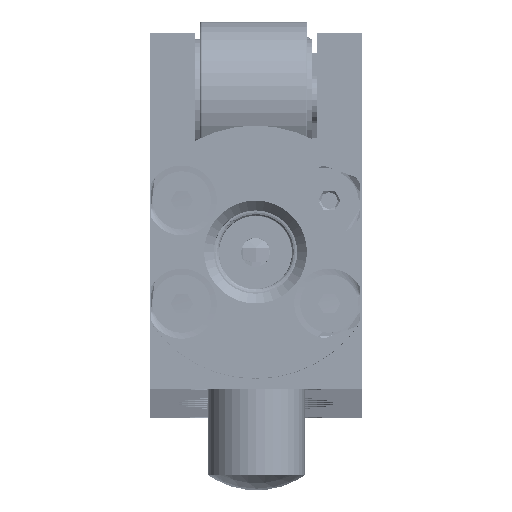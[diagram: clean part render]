
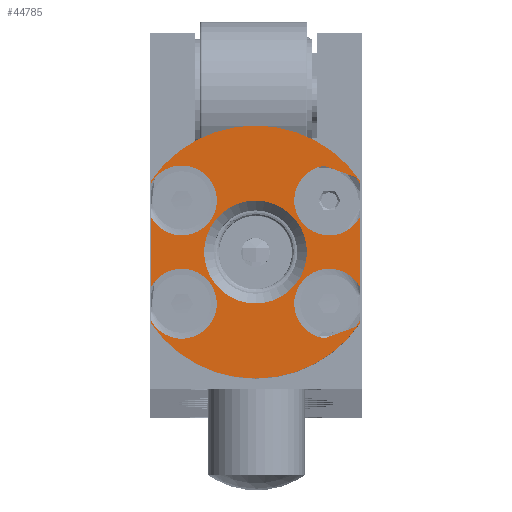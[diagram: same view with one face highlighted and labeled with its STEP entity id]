
A CAD part, top view. The second image highlights one B-rep face of the part: STEP entity #44785.
In plain terms, the highlighted planar face has unit normal (0, 0, 1).
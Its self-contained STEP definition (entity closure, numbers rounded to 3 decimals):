
#1626=FACE_BOUND('',#6975,.T.);
#2015=PLANE('',#49003);
#4252=FACE_OUTER_BOUND('',#6974,.T.);
#6974=EDGE_LOOP('',(#33857,#33858,#33859,#33860,#33861,#33862,#33863,#33864,
#33865,#33866,#33867,#33868,#33869,#33870,#33871,#33872));
#6975=EDGE_LOOP('',(#33873));
#9356=LINE('',#80592,#11003);
#9357=LINE('',#80595,#11004);
#9358=LINE('',#80599,#11005);
#9359=LINE('',#80603,#11006);
#9360=LINE('',#80607,#11007);
#9361=LINE('',#80611,#11008);
#9362=LINE('',#80615,#11009);
#9363=LINE('',#80618,#11010);
#11003=VECTOR('',#59495,10.);
#11004=VECTOR('',#59498,10.);
#11005=VECTOR('',#59501,10.);
#11006=VECTOR('',#59504,10.);
#11007=VECTOR('',#59507,10.);
#11008=VECTOR('',#59510,10.);
#11009=VECTOR('',#59513,10.);
#11010=VECTOR('',#59516,10.);
#13272=CIRCLE('',#48996,3.6);
#13275=CIRCLE('',#48999,3.6);
#13277=CIRCLE('',#49004,3.6);
#13278=CIRCLE('',#49005,3.6);
#13279=CIRCLE('',#49006,13.);
#13280=CIRCLE('',#49007,3.6);
#13281=CIRCLE('',#49008,3.6);
#13282=CIRCLE('',#49009,13.);
#13283=CIRCLE('',#49010,5.283);
#18231=VERTEX_POINT('',#80566);
#18232=VERTEX_POINT('',#80567);
#18233=VERTEX_POINT('',#80571);
#18237=VERTEX_POINT('',#80582);
#18239=VERTEX_POINT('',#80594);
#18240=VERTEX_POINT('',#80596);
#18241=VERTEX_POINT('',#80598);
#18242=VERTEX_POINT('',#80600);
#18243=VERTEX_POINT('',#80602);
#18244=VERTEX_POINT('',#80604);
#18245=VERTEX_POINT('',#80606);
#18246=VERTEX_POINT('',#80608);
#18247=VERTEX_POINT('',#80610);
#18248=VERTEX_POINT('',#80612);
#18249=VERTEX_POINT('',#80614);
#18250=VERTEX_POINT('',#80616);
#18251=VERTEX_POINT('',#80619);
#23969=EDGE_CURVE('',#18233,#18231,#13272,.T.);
#23975=EDGE_CURVE('',#18232,#18237,#13275,.T.);
#23978=EDGE_CURVE('',#18237,#18233,#9356,.T.);
#23979=EDGE_CURVE('',#18231,#18239,#9357,.T.);
#23980=EDGE_CURVE('',#18239,#18240,#13277,.T.);
#23981=EDGE_CURVE('',#18240,#18241,#9358,.T.);
#23982=EDGE_CURVE('',#18241,#18242,#13278,.T.);
#23983=EDGE_CURVE('',#18242,#18243,#9359,.T.);
#23984=EDGE_CURVE('',#18244,#18243,#13279,.T.);
#23985=EDGE_CURVE('',#18244,#18245,#9360,.T.);
#23986=EDGE_CURVE('',#18245,#18246,#13280,.T.);
#23987=EDGE_CURVE('',#18246,#18247,#9361,.T.);
#23988=EDGE_CURVE('',#18247,#18248,#13281,.T.);
#23989=EDGE_CURVE('',#18248,#18249,#9362,.T.);
#23990=EDGE_CURVE('',#18250,#18249,#13282,.T.);
#23991=EDGE_CURVE('',#18250,#18232,#9363,.T.);
#23992=EDGE_CURVE('',#18251,#18251,#13283,.T.);
#33857=ORIENTED_EDGE('',*,*,#23975,.T.);
#33858=ORIENTED_EDGE('',*,*,#23978,.T.);
#33859=ORIENTED_EDGE('',*,*,#23969,.T.);
#33860=ORIENTED_EDGE('',*,*,#23979,.T.);
#33861=ORIENTED_EDGE('',*,*,#23980,.T.);
#33862=ORIENTED_EDGE('',*,*,#23981,.T.);
#33863=ORIENTED_EDGE('',*,*,#23982,.T.);
#33864=ORIENTED_EDGE('',*,*,#23983,.T.);
#33865=ORIENTED_EDGE('',*,*,#23984,.F.);
#33866=ORIENTED_EDGE('',*,*,#23985,.T.);
#33867=ORIENTED_EDGE('',*,*,#23986,.T.);
#33868=ORIENTED_EDGE('',*,*,#23987,.T.);
#33869=ORIENTED_EDGE('',*,*,#23988,.T.);
#33870=ORIENTED_EDGE('',*,*,#23989,.T.);
#33871=ORIENTED_EDGE('',*,*,#23990,.F.);
#33872=ORIENTED_EDGE('',*,*,#23991,.T.);
#33873=ORIENTED_EDGE('',*,*,#23992,.F.);
#44785=ADVANCED_FACE('',(#4252,#1626),#2015,.T.);
#48996=AXIS2_PLACEMENT_3D('',#80572,#59479,#59480);
#48999=AXIS2_PLACEMENT_3D('',#80586,#59486,#59487);
#49003=AXIS2_PLACEMENT_3D('',#80593,#59496,#59497);
#49004=AXIS2_PLACEMENT_3D('',#80597,#59499,#59500);
#49005=AXIS2_PLACEMENT_3D('',#80601,#59502,#59503);
#49006=AXIS2_PLACEMENT_3D('',#80605,#59505,#59506);
#49007=AXIS2_PLACEMENT_3D('',#80609,#59508,#59509);
#49008=AXIS2_PLACEMENT_3D('',#80613,#59511,#59512);
#49009=AXIS2_PLACEMENT_3D('',#80617,#59514,#59515);
#49010=AXIS2_PLACEMENT_3D('',#80620,#59517,#59518);
#59479=DIRECTION('center_axis',(0.,0.,-1.));
#59480=DIRECTION('ref_axis',(-0.342,0.94,0.));
#59486=DIRECTION('center_axis',(0.,0.,-1.));
#59487=DIRECTION('ref_axis',(-0.342,0.94,0.));
#59495=DIRECTION('',(-0.94,-0.342,0.));
#59496=DIRECTION('center_axis',(0.,0.,1.));
#59497=DIRECTION('ref_axis',(1.,0.,0.));
#59498=DIRECTION('',(0.,1.,0.));
#59499=DIRECTION('center_axis',(0.,0.,-1.));
#59500=DIRECTION('ref_axis',(-0.342,-0.94,0.));
#59501=DIRECTION('',(0.94,-0.342,0.));
#59502=DIRECTION('center_axis',(0.,0.,-1.));
#59503=DIRECTION('ref_axis',(-0.342,-0.94,0.));
#59504=DIRECTION('',(0.,1.,0.));
#59505=DIRECTION('center_axis',(0.,0.,-1.));
#59506=DIRECTION('ref_axis',(0.,1.,0.));
#59507=DIRECTION('',(0.,-1.,0.));
#59508=DIRECTION('center_axis',(0.,0.,-1.));
#59509=DIRECTION('ref_axis',(1.,0.,0.));
#59510=DIRECTION('',(0.,-1.,0.));
#59511=DIRECTION('center_axis',(0.,0.,-1.));
#59512=DIRECTION('ref_axis',(1.,0.,0.));
#59513=DIRECTION('',(0.,-1.,0.));
#59514=DIRECTION('center_axis',(0.,0.,-1.));
#59515=DIRECTION('ref_axis',(0.,1.,0.));
#59516=DIRECTION('',(0.,1.,0.));
#59517=DIRECTION('center_axis',(0.,0.,1.));
#59518=DIRECTION('ref_axis',(-1.,0.,0.));
#80566=CARTESIAN_POINT('',(10.7,-7.855,1336.));
#80567=CARTESIAN_POINT('',(10.7,-11.256,1336.));
#80571=CARTESIAN_POINT('',(7.014,-13.119,1336.));
#80572=CARTESIAN_POINT('Origin',(7.527,-9.556,1336.));
#80582=CARTESIAN_POINT('',(10.211,-11.955,1336.));
#80586=CARTESIAN_POINT('Origin',(7.527,-9.556,1336.));
#80592=CARTESIAN_POINT('',(8.106,-12.721,1336.));
#80593=CARTESIAN_POINT('Origin',(-0.05,2.25,1336.));
#80594=CARTESIAN_POINT('',(10.7,-0.645,1336.));
#80595=CARTESIAN_POINT('',(10.7,-4.655,1336.));
#80596=CARTESIAN_POINT('',(7.014,4.619,1336.));
#80597=CARTESIAN_POINT('Origin',(7.527,1.056,1336.));
#80598=CARTESIAN_POINT('',(10.211,3.455,1336.));
#80599=CARTESIAN_POINT('',(6.017,4.982,1336.));
#80600=CARTESIAN_POINT('',(10.7,2.756,1336.));
#80601=CARTESIAN_POINT('Origin',(7.527,1.056,1336.));
#80602=CARTESIAN_POINT('',(10.7,3.06,1336.));
#80603=CARTESIAN_POINT('',(10.7,-4.655,1336.));
#80604=CARTESIAN_POINT('',(-10.8,3.06,1336.));
#80605=CARTESIAN_POINT('Origin',(-0.05,-4.25,1336.));
#80606=CARTESIAN_POINT('',(-10.8,2.756,1336.));
#80607=CARTESIAN_POINT('',(-10.8,2.655,1336.));
#80608=CARTESIAN_POINT('',(-10.8,-0.645,1336.));
#80609=CARTESIAN_POINT('Origin',(-7.627,1.056,1336.));
#80610=CARTESIAN_POINT('',(-10.8,-7.855,1336.));
#80611=CARTESIAN_POINT('',(-10.8,2.655,1336.));
#80612=CARTESIAN_POINT('',(-10.8,-11.256,1336.));
#80613=CARTESIAN_POINT('Origin',(-7.627,-9.556,1336.));
#80614=CARTESIAN_POINT('',(-10.8,-11.56,1336.));
#80615=CARTESIAN_POINT('',(-10.8,2.655,1336.));
#80616=CARTESIAN_POINT('',(10.7,-11.56,1336.));
#80617=CARTESIAN_POINT('Origin',(-0.05,-4.25,1336.));
#80618=CARTESIAN_POINT('',(10.7,-4.655,1336.));
#80619=CARTESIAN_POINT('',(5.233,-4.25,1336.));
#80620=CARTESIAN_POINT('Origin',(-0.05,-4.25,1336.));
